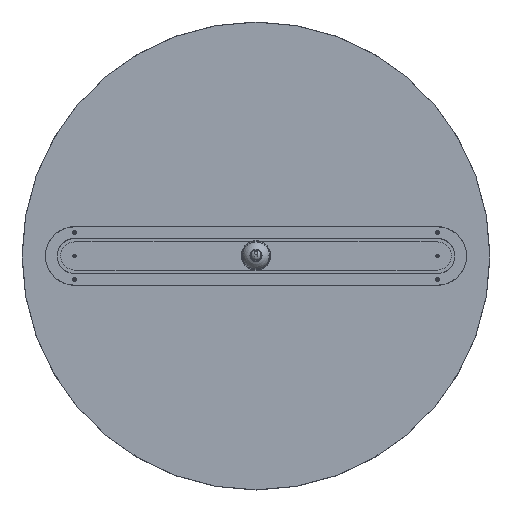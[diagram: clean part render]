
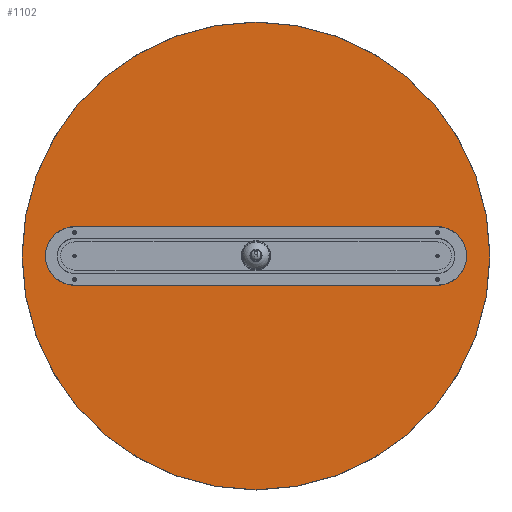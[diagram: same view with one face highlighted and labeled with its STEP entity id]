
A CAD part, top view. The second image highlights one B-rep face of the part: STEP entity #1102.
In plain terms, the highlighted planar face has unit normal (0, 0, 1).
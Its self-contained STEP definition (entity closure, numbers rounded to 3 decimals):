
#1032=CARTESIAN_POINT('',(12927.358,-3695.301,20.));
#1033=DIRECTION('',(0.,0.,1.));
#1034=DIRECTION('',(1.,0.,0.));
#1035=AXIS2_PLACEMENT_3D('',#1032,#1033,#1034);
#1036=PLANE('',#1035);
#1037=CARTESIAN_POINT('',(13127.258,-3695.3,20.));
#1038=VERTEX_POINT('',#1037);
#1039=CARTESIAN_POINT('',(12727.458,-3695.3,20.));
#1040=VERTEX_POINT('',#1039);
#1041=CARTESIAN_POINT('',(12927.358,-3695.3,20.));
#1042=DIRECTION('',(0.,0.,1.));
#1043=DIRECTION('',(1.,0.,-0.));
#1044=AXIS2_PLACEMENT_3D('',#1041,#1042,#1043);
#1045=CIRCLE('',#1044,199.9);
#1046=EDGE_CURVE('',#1038,#1040,#1045,.T.);
#1047=ORIENTED_EDGE('',*,*,#1046,.T.);
#1048=CARTESIAN_POINT('',(12927.358,-3695.3,20.));
#1049=DIRECTION('',(0.,0.,1.));
#1050=DIRECTION('',(1.,0.,-0.));
#1051=AXIS2_PLACEMENT_3D('',#1048,#1049,#1050);
#1052=CIRCLE('',#1051,199.9);
#1053=EDGE_CURVE('',#1040,#1038,#1052,.T.);
#1054=ORIENTED_EDGE('',*,*,#1053,.T.);
#1055=EDGE_LOOP('',(#1047,#1054));
#1056=FACE_BOUND('',#1055,.T.);
#1057=CARTESIAN_POINT('',(13082.358,-3720.401,20.));
#1058=VERTEX_POINT('',#1057);
#1059=CARTESIAN_POINT('',(12772.358,-3720.401,20.));
#1060=VERTEX_POINT('',#1059);
#1061=CARTESIAN_POINT('',(13082.358,-3720.401,20.));
#1062=DIRECTION('',(-1.,0.,0.));
#1063=VECTOR('',#1062,310.);
#1064=LINE('',#1061,#1063);
#1065=EDGE_CURVE('',#1058,#1060,#1064,.T.);
#1066=ORIENTED_EDGE('',*,*,#1065,.T.);
#1067=CARTESIAN_POINT('',(12772.358,-3670.201,20.));
#1068=VERTEX_POINT('',#1067);
#1069=CARTESIAN_POINT('',(12772.358,-3695.301,20.));
#1070=DIRECTION('',(-0.,-0.,-1.));
#1071=DIRECTION('',(1.,0.,-0.));
#1072=AXIS2_PLACEMENT_3D('',#1069,#1070,#1071);
#1073=CIRCLE('',#1072,25.1);
#1074=EDGE_CURVE('',#1060,#1068,#1073,.T.);
#1075=ORIENTED_EDGE('',*,*,#1074,.T.);
#1076=CARTESIAN_POINT('',(13082.358,-3670.201,20.));
#1077=VERTEX_POINT('',#1076);
#1078=CARTESIAN_POINT('',(12772.358,-3670.201,20.));
#1079=DIRECTION('',(1.,-0.,0.));
#1080=VECTOR('',#1079,310.);
#1081=LINE('',#1078,#1080);
#1082=EDGE_CURVE('',#1068,#1077,#1081,.T.);
#1083=ORIENTED_EDGE('',*,*,#1082,.T.);
#1084=CARTESIAN_POINT('',(13107.458,-3695.301,20.));
#1085=VERTEX_POINT('',#1084);
#1086=CARTESIAN_POINT('',(13082.358,-3695.301,20.));
#1087=DIRECTION('',(-0.,-0.,-1.));
#1088=DIRECTION('',(1.,0.,-0.));
#1089=AXIS2_PLACEMENT_3D('',#1086,#1087,#1088);
#1090=CIRCLE('',#1089,25.1);
#1091=EDGE_CURVE('',#1077,#1085,#1090,.T.);
#1092=ORIENTED_EDGE('',*,*,#1091,.T.);
#1093=CARTESIAN_POINT('',(13082.358,-3695.301,20.));
#1094=DIRECTION('',(-0.,-0.,-1.));
#1095=DIRECTION('',(1.,0.,-0.));
#1096=AXIS2_PLACEMENT_3D('',#1093,#1094,#1095);
#1097=CIRCLE('',#1096,25.1);
#1098=EDGE_CURVE('',#1085,#1058,#1097,.T.);
#1099=ORIENTED_EDGE('',*,*,#1098,.T.);
#1100=EDGE_LOOP('',(#1066,#1075,#1083,#1092,#1099));
#1101=FACE_BOUND('',#1100,.T.);
#1102=ADVANCED_FACE('',(#1056,#1101),#1036,.T.);
